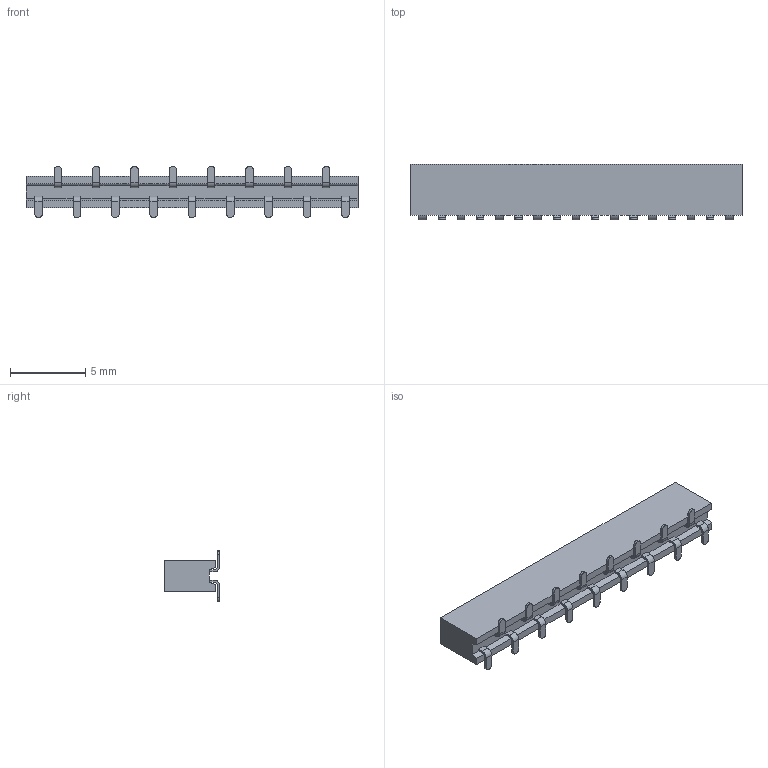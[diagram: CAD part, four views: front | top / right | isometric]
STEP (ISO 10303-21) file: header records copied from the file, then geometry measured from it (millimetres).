
FILE_DESCRIPTION (( 'STEP AP203' ), '1' );
FILE_NAME ('PM127-1-17-S-3.4-XX-2(L3.6) (1.27 等齬 齬譫 泂え 呿詢3.4-HCTL).STEP', '2026-02-26T07:31:21', ( '' ), ( '' ), 'SwSTEP 2.0', 'SolidWorks 2025', '' );
FILE_SCHEMA (( 'CONFIG_CONTROL_DESIGN' ));
Length unit declared in the file: millimetre
Products named in the file (1): PM127-1-17-S-3.4-XX-2(L3.6) (1.27 单排 排母 贴片 塑高3.4-HCTL)
Bounding box: 21.99 x 3.7 x 3.4 mm (x, y, z)
Volume: 145.1 mm3; surface area: 342.2 mm2
Topology: 1 solids, 1 shells, 333 faces, 840 edges, 526 vertices
Faces by surface type: plane 265, cylinder 68
Entity records: 9851 total; most frequent: CARTESIAN_POINT 1700, ORIENTED_EDGE 1680, DIRECTION 1644, EDGE_CURVE 840, LINE 704, VECTOR 704, VERTEX_POINT 526, AXIS2_PLACEMENT_3D 470
